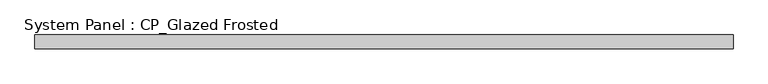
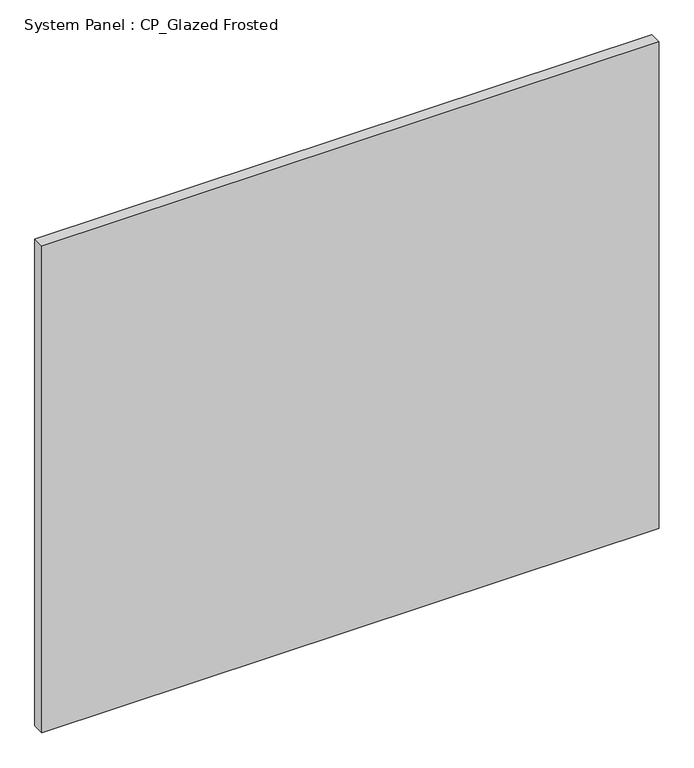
"""IFC4 building model written with IfcOpenShell, lengths in millimetres: plate geometry, System Panel : CP_Glazed Frosted."""

from ifc_helpers import new_model, si_unit, origin, origin_with_axes, place, context, project, spatial, polyline, outline, extrude, source, transform, mapped, element, save


def system_panel_cp_glazed_frosted_a16d9100(model_context):
    return source(origin(), model_context, "Body", "SweptSolid", [
        extrude(outline(polyline([(643.73125, 19.05), (-643.73125, 19.05), (-643.73125, 44.45), (643.73125, 44.45), (643.73125, 19.05)])), origin_with_axes(), (0.0, 0.0, 1.0), 1073.15),
    ])


if __name__ == "__main__":
    model = new_model("IFC4")
    model_context = context("Model", 3, world=origin())
    ifc_project = project(units=[si_unit("LENGTHUNIT", "METRE", prefix="MILLI")], contexts=[model_context])
    site = spatial("IfcSite", under=ifc_project)
    building = spatial("IfcBuilding", under=site)
    placement = place(None, origin())
    system_panel_cp_glazed_frosted_shape = system_panel_cp_glazed_frosted_a16d9100(model_context)
    element("IfcPlate", 1, ObjectType="System Panel : CP_Glazed Frosted", at=placement, inside=building, context=model_context, shape_type="MappedRepresentation", body=[
        mapped(system_panel_cp_glazed_frosted_shape, transform((0.0, 0.0, 0.0), x_axis=(1.0, 0.0, 0.0), y_axis=(0.0, 1.0, 0.0), z_axis=(0.0, 0.0, 1.0))),
    ])
    save(model, "model.ifc")
